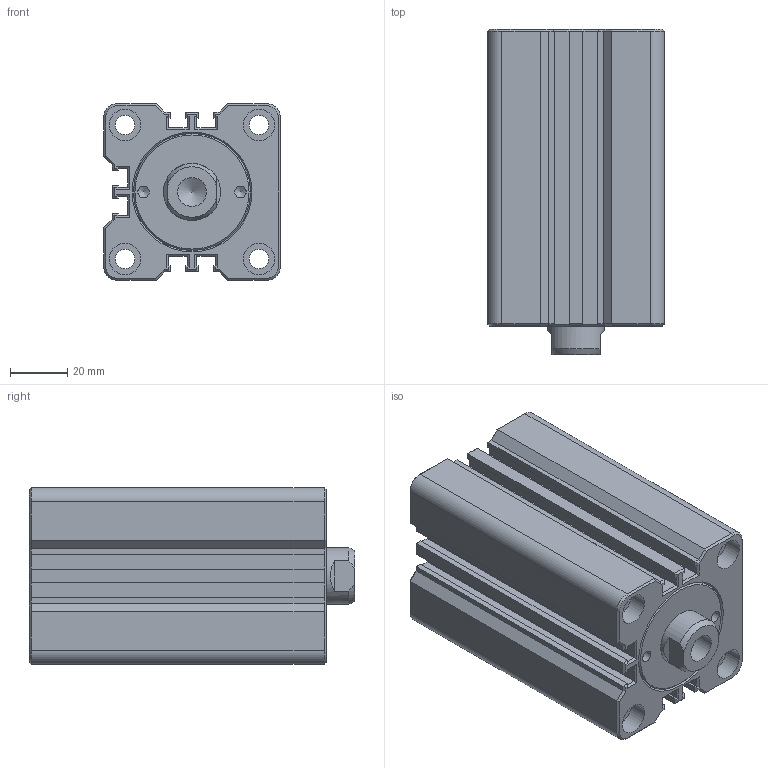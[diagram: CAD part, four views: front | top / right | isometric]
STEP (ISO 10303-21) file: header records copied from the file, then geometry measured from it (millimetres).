
FILE_DESCRIPTION(/* description */ ('Unknown'),/* implementation_level */ '2;1');
FILE_NAME(/* name */ 'HTM70-SDMB32X50N',/* time_stamp */ '2022-08-31T05:40:46+08:00',/* author */ ('Unknown'),/* organization */ ('Unknown'),/* preprocessor_version */ 'ST-DEVELOPER v16.7',/* originating_system */ 'DEX',/* authorisation */ $);
FILE_SCHEMA (('AUTOMOTIVE_DESIGN {1 0 10303 214 3 1 1}'));
Length unit declared in the file: millimetre
Products named in the file (1): HTM70-SDMB32X50N
Bounding box: 62 x 114 x 62 mm (x, y, z)
Volume: 336658.2 mm3; surface area: 54377.4 mm2
Topology: 1 solids, 1 shells, 321 faces, 746 edges, 447 vertices
Faces by surface type: plane 218, cone 40, bspline 36, cylinder 27
Full cylindrical faces by diameter (mm): 4.1 x2, 5 x2, 6 x1, 6.8 x4, 10.106 x1, 11 x8, 12 x2, 13 x2, 20 x1
Entity records: 11197 total; most frequent: CARTESIAN_POINT 2127, ORIENTED_EDGE 1386, DIRECTION 1284, EDGE_CURVE 693, LINE 486, VECTOR 486, VERTEX_POINT 434, AXIS2_PLACEMENT_3D 399
